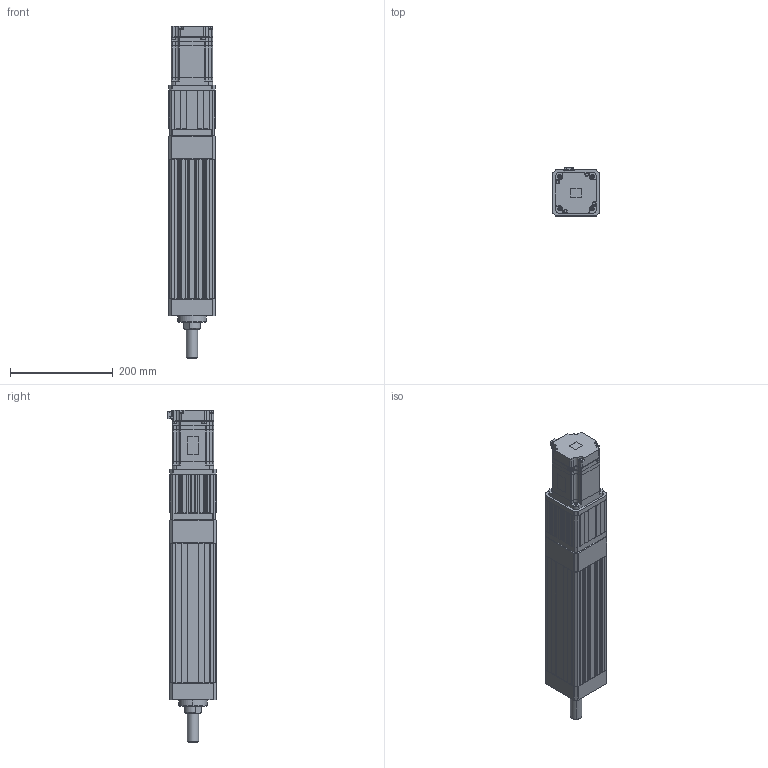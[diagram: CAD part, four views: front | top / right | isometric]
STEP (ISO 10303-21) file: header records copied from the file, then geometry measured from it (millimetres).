
FILE_DESCRIPTION (( 'STEP AP203' ), '1' );
FILE_NAME ('ANS090R-S150-05(10)(20)-W75-M.STEP', '2019-03-02T10:52:28', ( 'user' ), ( '' ), 'SwSTEP 2.0', 'SolidWorks 2013', '' );
FILE_SCHEMA (( 'CONFIG_CONTROL_DESIGN' ));
Length unit declared in the file: millimetre
Products named in the file (4): ANS090R S150 VER2; SGMJV_08A_A21; ANS090 ROD ST150-M; ANS090R-S150-05(10)(20)-W75-M
Assembly tree (3 placements, depth 2):
  ANS090R-S150-05(10)(20)-W75-M
    ANS090R S150 VER2
    SGMJV_08A_A21
    ANS090 ROD ST150-M
Bounding box: 90 x 93.8 x 646.1 mm (x, y, z)
Volume: 2718446.2 mm3; surface area: 430326.2 mm2
Topology: 3 solids, 3 shells, 1438 faces, 3878 edges, 2504 vertices
Faces by surface type: plane 930, cylinder 404, cone 100, bspline 4
Entity records: 45220 total; most frequent: CARTESIAN_POINT 8496, ORIENTED_EDGE 7708, DIRECTION 7414, EDGE_CURVE 3854, LINE 2890, VECTOR 2890, VERTEX_POINT 2504, AXIS2_PLACEMENT_3D 2262
